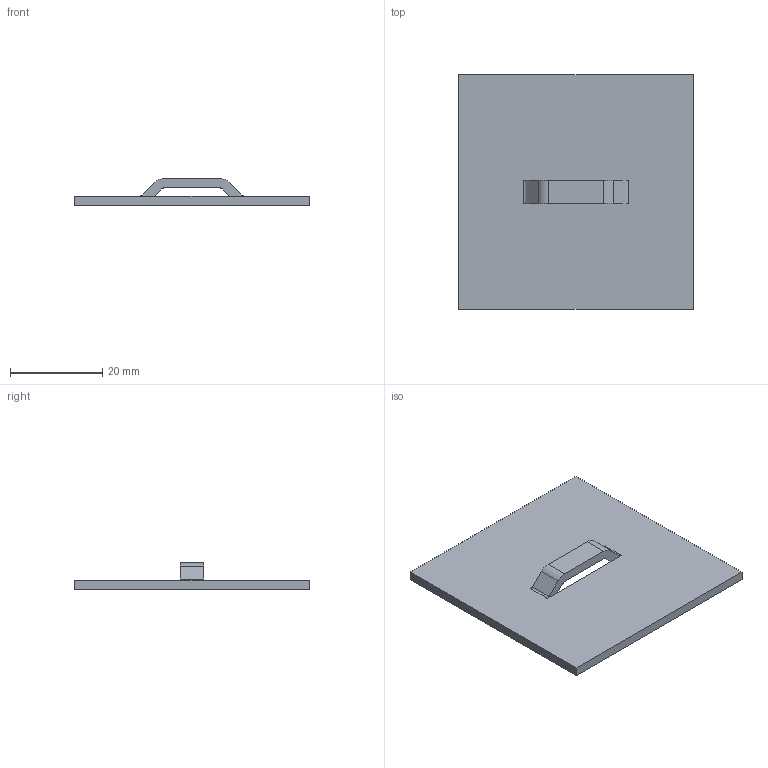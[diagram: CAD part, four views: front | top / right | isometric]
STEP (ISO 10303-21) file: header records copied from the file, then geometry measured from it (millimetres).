
FILE_DESCRIPTION((''),'1');
FILE_NAME('C:/Users/robertnolte/Desktop/WT#770717-10.stp','2012-03-28T19:40:06',(''),(''),'Spatial Interop R21 SP3','Kubotek KeyCreator 2011 V10.5.0 (24766)',' ');
FILE_SCHEMA(('CONFIG_CONTROL_DESIGN'));
Length unit declared in the file: inch
Products named in the file (1): 1
Bounding box: 50.8 x 50.8 x 5.84 mm (x, y, z)
Volume: 5270.9 mm3; surface area: 5798.7 mm2
Topology: 1 solids, 1 shells, 28 faces, 84 edges, 56 vertices
Faces by surface type: plane 20, cylinder 8
Entity records: 996 total; most frequent: CARTESIAN_POINT 169, ORIENTED_EDGE 168, DIRECTION 158, EDGE_CURVE 84, LINE 68, VECTOR 68, VERTEX_POINT 56, AXIS2_PLACEMENT_3D 45
